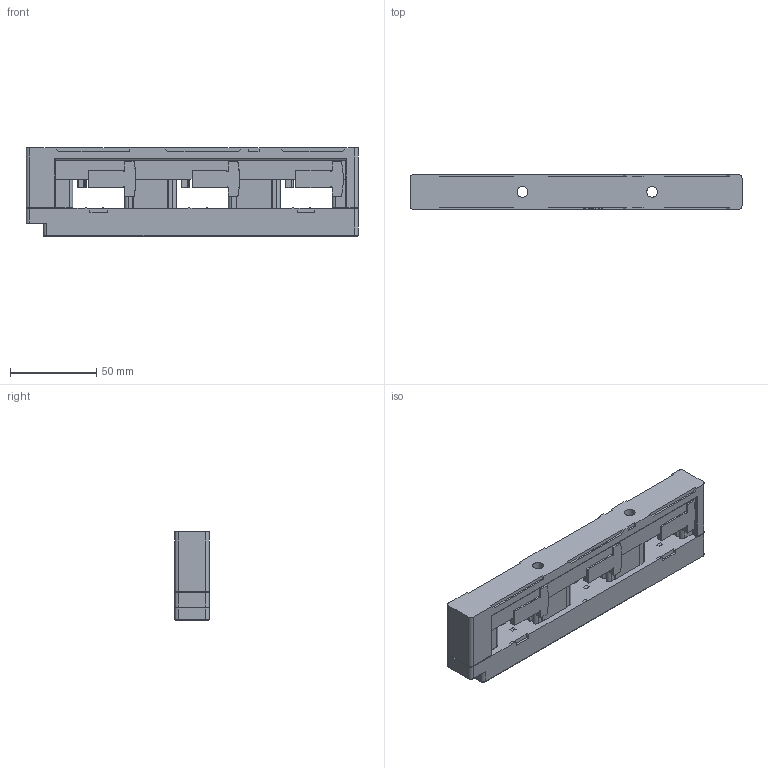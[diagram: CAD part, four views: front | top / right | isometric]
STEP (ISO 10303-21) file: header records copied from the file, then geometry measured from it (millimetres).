
FILE_DESCRIPTION (( 'STEP AP214' ), '1' );
FILE_NAME ('52508.STEP', '2021-08-11T00:14:31', ( '' ), ( '' ), 'SwSTEP 2.0', 'SolidWorks 2017', '' );
FILE_SCHEMA (( 'AUTOMOTIVE_DESIGN' ));
Length unit declared in the file: millimetre
Products named in the file (2): 52508
Bounding box: 192 x 20 x 51 mm (x, y, z)
Volume: 140898.1 mm3; surface area: 55092.5 mm2
Topology: 6 solids, 34 shells, 2041 faces, 5436 edges, 3488 vertices
Faces by surface type: plane 1560, cylinder 307, torus 62, sphere 58, cone 27, bspline 27
Full cylindrical faces by diameter (mm): 5 x4, 5.2 x5, 6.2 x2, 7.8 x4, 9 x4, 11 x5, 12 x2
Entity records: 80867 total; most frequent: CARTESIAN_POINT 13639, ORIENTED_EDGE 10622, DIRECTION 9853, EDGE_CURVE 5311, VECTOR 4425, LINE 4425, VERTEX_POINT 3463, AXIS2_PLACEMENT_3D 2714
